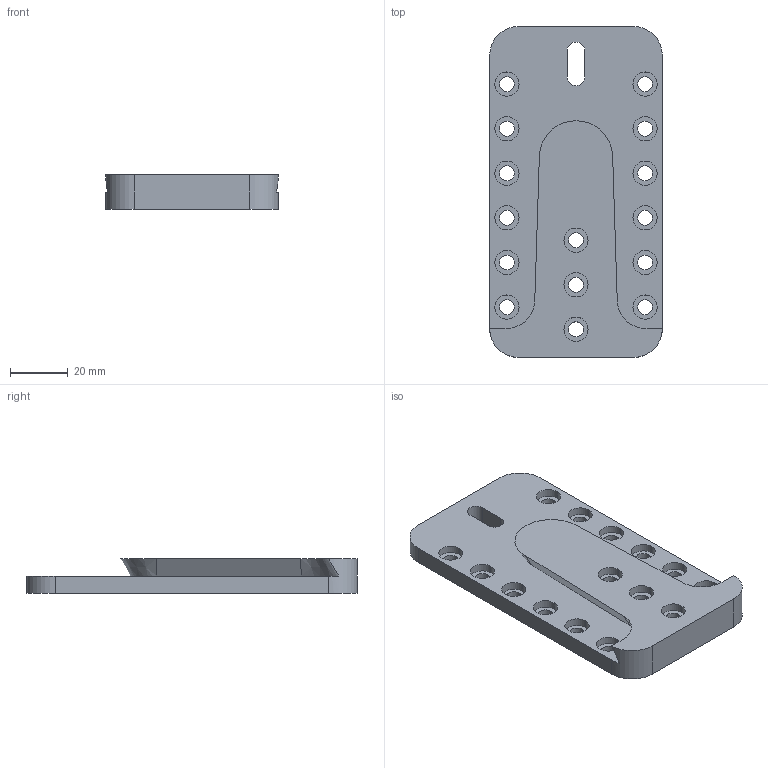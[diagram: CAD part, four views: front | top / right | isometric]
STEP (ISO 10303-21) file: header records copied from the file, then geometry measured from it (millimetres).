
FILE_DESCRIPTION (( 'STEP AP203' ), '1' );
FILE_NAME ('UV_40_HT_Holz.STEP', '2019-11-14T13:31:41', ( '' ), ( '' ), 'SwSTEP 2.0', 'SolidWorks 2013', '' );
FILE_SCHEMA (( 'CONFIG_CONTROL_DESIGN' ));
Length unit declared in the file: millimetre
Products named in the file (1): UV_40_HT_Holz
Bounding box: 60 x 115 x 12 mm (x, y, z)
Volume: 49642.4 mm3; surface area: 19521 mm2
Topology: 1 solids, 1 shells, 97 faces, 240 edges, 160 vertices
Faces by surface type: cylinder 66, plane 28, cone 3
Entity records: 3095 total; most frequent: DIRECTION 574, CARTESIAN_POINT 504, ORIENTED_EDGE 480, EDGE_CURVE 240, AXIS2_PLACEMENT_3D 238, VERTEX_POINT 160, EDGE_LOOP 144, CIRCLE 140
